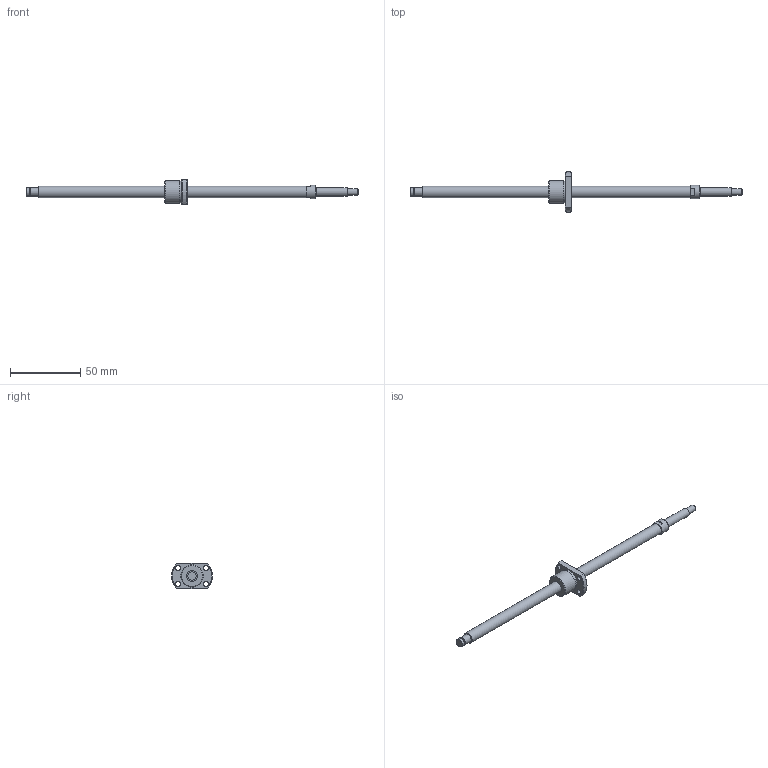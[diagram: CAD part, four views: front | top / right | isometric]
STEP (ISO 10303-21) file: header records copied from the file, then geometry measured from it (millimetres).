
FILE_DESCRIPTION(/* description */ ('STEP AP214'),/* implementation_level */ '2;1');
FILE_NAME(/* name */ 'SRT0802.5-187R237C7B0X(90Processing)',/* time_stamp */ '2026-08-04T19:59:12+02:00',/* author */ ('License CC BY-ND 4.0'),/* organization */ ('CADENAS'),/* preprocessor_version */ 'ST-DEVELOPER v20',/* originating_system */ 'PARTsolutions',/* authorisation */ ' ');
FILE_SCHEMA (('AUTOMOTIVE_DESIGN {1 0 10303 214 3 1 1}'));
Length unit declared in the file: millimetre
Products named in the file (3): SRT0802.5-187R237C7B0X(90Processing); SRT0802.5-187R270BCt7Processing37Shaft; SRT0802.5Nut
Assembly tree (2 placements, depth 2):
  SRT0802.5-187R237C7B0X(90Processing)
    SRT0802.5-187R270BCt7Processing37Shaft
    SRT0802.5Nut
Bounding box: 237 x 29 x 18 mm (x, y, z)
Volume: 14465.6 mm3; surface area: 8125 mm2
Topology: 2 solids, 2 shells, 44 faces, 95 edges, 62 vertices
Faces by surface type: plane 19, cylinder 16, cone 8, torus 1
Full cylindrical faces by diameter (mm): 3.4 x4, 4.5 x1, 5.7 x1, 6 x3, 8 x2, 9.5 x1, 15.7 x1, 16 x1
Entity records: 1175 total; most frequent: DIRECTION 202, CARTESIAN_POINT 199, ORIENTED_EDGE 142, AXIS2_PLACEMENT_3D 92, EDGE_LOOP 80, FACE_BOUND 80, EDGE_CURVE 71, VERTEX_POINT 57
